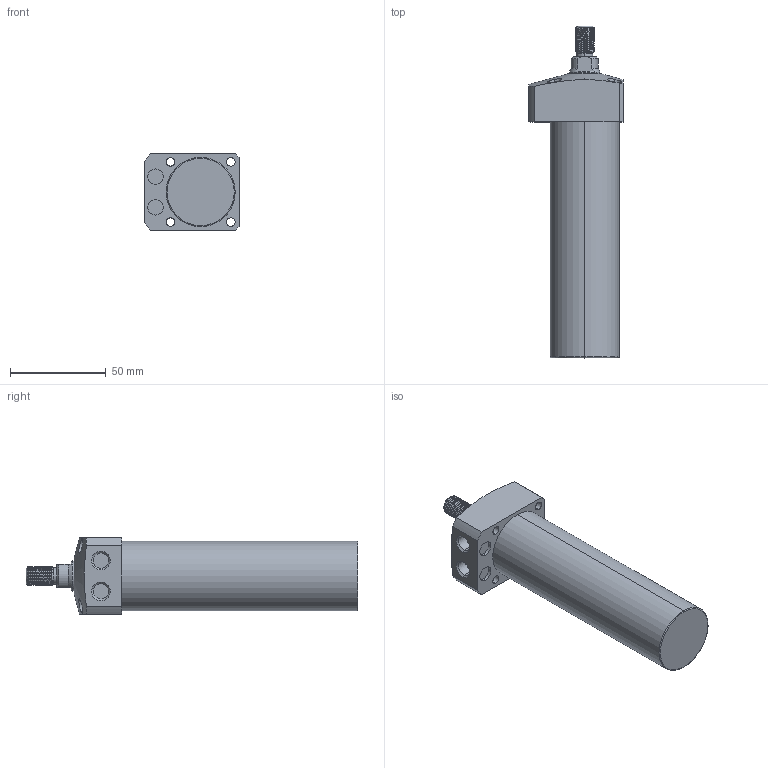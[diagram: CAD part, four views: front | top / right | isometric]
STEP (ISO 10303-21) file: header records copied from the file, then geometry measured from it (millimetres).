
FILE_DESCRIPTION (( 'STEP AP203' ), '1' );
FILE_NAME ('CLL-036CT-100.STEP', '2020-01-08T08:53:40', ( '' ), ( '' ), 'SwSTEP 2.0', 'SolidWorks 2015', '' );
FILE_SCHEMA (( 'CONFIG_CONTROL_DESIGN' ));
Length unit declared in the file: millimetre
Products named in the file (1): CLL-036CT-100
Bounding box: 49 x 173 x 40 mm (x, y, z)
Volume: 168098.3 mm3; surface area: 24572.5 mm2
Topology: 1 solids, 1 shells, 103 faces, 256 edges, 166 vertices
Faces by surface type: cylinder 61, plane 23, cone 15, torus 2, bspline 2
Entity records: 5012 total; most frequent: CARTESIAN_POINT 2616, ORIENTED_EDGE 512, DIRECTION 457, EDGE_CURVE 256, AXIS2_PLACEMENT_3D 184, VERTEX_POINT 166, EDGE_LOOP 122, ADVANCED_FACE 103
